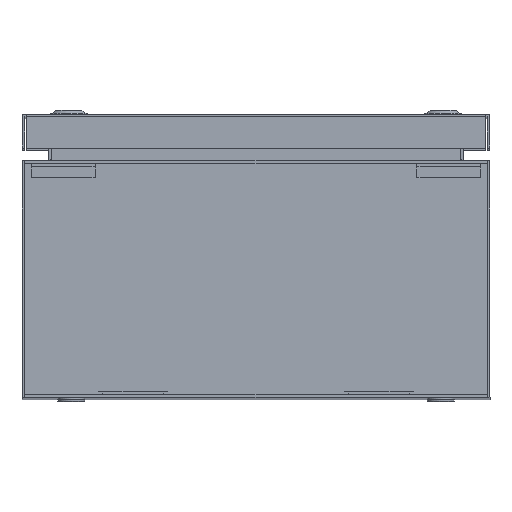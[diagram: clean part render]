
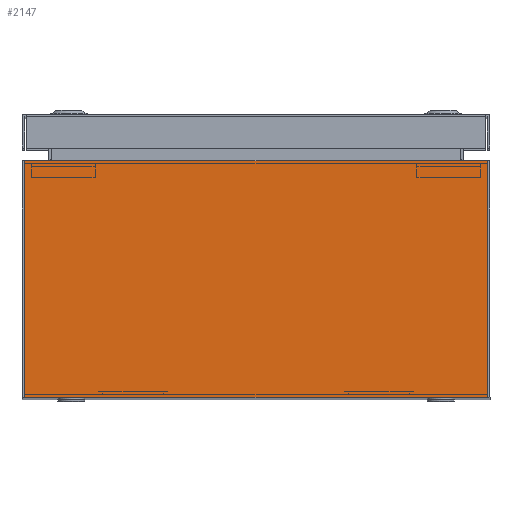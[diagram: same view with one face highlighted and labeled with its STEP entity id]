
A CAD part, top view. The second image highlights one B-rep face of the part: STEP entity #2147.
In plain terms, the highlighted planar face has unit normal (0, 0, 1).
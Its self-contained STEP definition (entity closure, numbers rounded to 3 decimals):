
#436 = VERTEX_POINT('',#437);
#437 = CARTESIAN_POINT('',(98.729,-1.2,300.));
#443 = EDGE_CURVE('',#436,#444,#446,.T.);
#444 = VERTEX_POINT('',#445);
#445 = CARTESIAN_POINT('',(-98.729,-1.2,300.));
#446 = LINE('',#447,#448);
#447 = CARTESIAN_POINT('',(3100.,-1.2,300.));
#448 = VECTOR('',#449,1.);
#449 = DIRECTION('',(-1.,0.,0.));
#1377 = EDGE_CURVE('',#1378,#436,#1380,.T.);
#1378 = VERTEX_POINT('',#1379);
#1379 = CARTESIAN_POINT('',(98.729,99.8,300.));
#1380 = LINE('',#1381,#1382);
#1381 = CARTESIAN_POINT('',(98.729,98.,300.));
#1382 = VECTOR('',#1383,1.);
#1383 = DIRECTION('',(0.,-1.,0.));
#2043 = EDGE_CURVE('',#444,#2044,#2046,.T.);
#2044 = VERTEX_POINT('',#2045);
#2045 = CARTESIAN_POINT('',(-98.729,99.8,300.));
#2046 = LINE('',#2047,#2048);
#2047 = CARTESIAN_POINT('',(-98.729,98.,300.));
#2048 = VECTOR('',#2049,1.);
#2049 = DIRECTION('',(0.,1.,0.));
#2147 = ADVANCED_FACE('',(#2148),#2159,.F.);
#2148 = FACE_BOUND('',#2149,.T.);
#2149 = EDGE_LOOP('',(#2150,#2151,#2152,#2153));
#2150 = ORIENTED_EDGE('',*,*,#2043,.F.);
#2151 = ORIENTED_EDGE('',*,*,#443,.F.);
#2152 = ORIENTED_EDGE('',*,*,#1377,.F.);
#2153 = ORIENTED_EDGE('',*,*,#2154,.T.);
#2154 = EDGE_CURVE('',#1378,#2044,#2155,.T.);
#2155 = LINE('',#2156,#2157);
#2156 = CARTESIAN_POINT('',(3100.,99.8,300.));
#2157 = VECTOR('',#2158,1.);
#2158 = DIRECTION('',(-1.,0.,0.));
#2159 = PLANE('',#2160);
#2160 = AXIS2_PLACEMENT_3D('',#2161,#2162,#2163);
#2161 = CARTESIAN_POINT('',(3100.,98.,300.));
#2162 = DIRECTION('',(0.,0.,-1.));
#2163 = DIRECTION('',(0.,-1.,0.));
